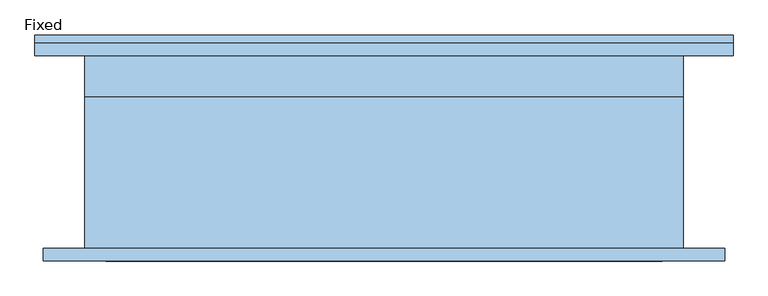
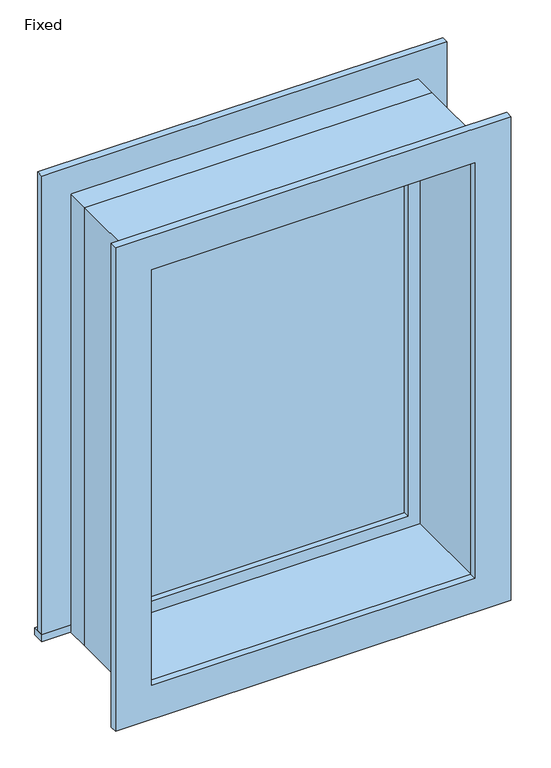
"""IFC4 building model written with IfcOpenShell, lengths in millimetres: window geometry."""

from ifc_helpers import new_model, si_unit, frame, origin, place, context, project, spatial, polyline, outline, extrude, source, transform, mapped, element, save


def fixed_94481ef7(model_context):
    return source(origin(), model_context, "Body", "SweptSolid", [
        extrude(outline(polyline([(-571.5, 179.3875), (495.3, 179.3875), (495.3, 147.6375), (-571.5, 147.6375), (-571.5, 179.3875)])), frame((0.0, 0.0, 914.4), z_axis=(0.0, 0.0, 1.0), x_axis=(1.0, 0.0, 0.0)), (0.0, 0.0, 1.0), 19.05),
        extrude(outline(polyline([(2114.55, -476.25), (2114.55, 400.05), (933.45, 400.05), (933.45, 495.3), (2209.8, 495.3), (2209.8, -571.5), (933.45, -571.5), (933.45, -476.25), (2114.55, -476.25)])), frame((0.0, 147.6375, 0.0), z_axis=(0.0, 1.0, 0.0), x_axis=(0.0, 0.0, 1.0)), (0.0, 0.0, 1.0), 19.05),
        extrude(outline(polyline([(2197.1, 482.6), (2197.1, -558.8), (850.9, -558.8), (850.9, 482.6), (2197.1, 482.6)]), holes=[polyline([(2101.85, 387.35), (946.15, 387.35), (946.15, -463.55), (2101.85, -463.55), (2101.85, 387.35)])]), frame((0.0, -166.6875, 0.0), z_axis=(0.0, 1.0, 0.0), x_axis=(0.0, 0.0, 1.0)), (0.0, 0.0, 1.0), 19.05),
        extrude(outline(polyline([(355.6, 100.0125), (-431.8, 100.0125), (-431.8, 112.7125), (355.6, 112.7125), (355.6, 100.0125)])), frame((0.0, 0.0, 977.9), z_axis=(0.0, 0.0, 1.0), x_axis=(1.0, 0.0, 0.0)), (0.0, 0.0, 1.0), 1092.2),
        extrude(outline(polyline([(2114.55, -476.25), (933.45, -476.25), (933.45, 400.05), (2114.55, 400.05), (2114.55, -476.25)]), holes=[polyline([(2070.1, -431.8), (2070.1, 355.6), (977.9, 355.6), (977.9, -431.8), (2070.1, -431.8)])]), frame((0.0, 84.1375, 0.0), z_axis=(0.0, 1.0, 0.0), x_axis=(0.0, 0.0, 1.0)), (0.0, 0.0, 1.0), 44.45),
        extrude(outline(polyline([(2133.6, -495.3), (914.4, -495.3), (914.4, 419.1), (2133.6, 419.1), (2133.6, -495.3)]), holes=[polyline([(2101.85, -463.55), (2101.85, 387.35), (946.15, 387.35), (946.15, -463.55), (2101.85, -463.55)])]), frame((0.0, -147.6375, 0.0), z_axis=(0.0, 1.0, 0.0), x_axis=(0.0, 0.0, 1.0)), (0.0, 0.0, 1.0), 231.775),
        extrude(outline(polyline([(2133.6, 419.1), (2133.6, -495.3), (914.4, -495.3), (914.4, 419.1), (2133.6, 419.1)]), holes=[polyline([(2114.55, 400.05), (933.45, 400.05), (933.45, -476.25), (2114.55, -476.25), (2114.55, 400.05)])]), frame((0.0, 84.1375, 0.0), z_axis=(0.0, 1.0, 0.0), x_axis=(0.0, 0.0, 1.0)), (0.0, 0.0, 1.0), 63.5),
    ])


if __name__ == "__main__":
    model = new_model("IFC4")
    model_context = context("Model", 3, world=origin())
    ifc_project = project(units=[si_unit("LENGTHUNIT", "METRE", prefix="MILLI")], contexts=[model_context])
    site = spatial("IfcSite", under=ifc_project)
    building = spatial("IfcBuilding", under=site)
    placement = place(None, origin())
    fixed_shape = fixed_94481ef7(model_context)
    element("IfcWindow", 1, ObjectType="Fixed : 36\"w x 48\"h", at=placement, inside=building, context=model_context, shape_type="MappedRepresentation", body=[
        mapped(fixed_shape, transform((0.0, 0.0, 0.0), x_axis=(1.0, 0.0, 0.0), y_axis=(0.0, 1.0, 0.0), z_axis=(0.0, 0.0, 1.0))),
    ])
    save(model, "model.ifc")
